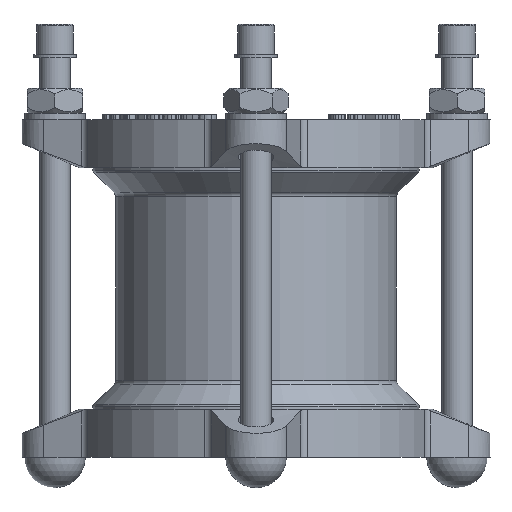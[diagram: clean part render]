
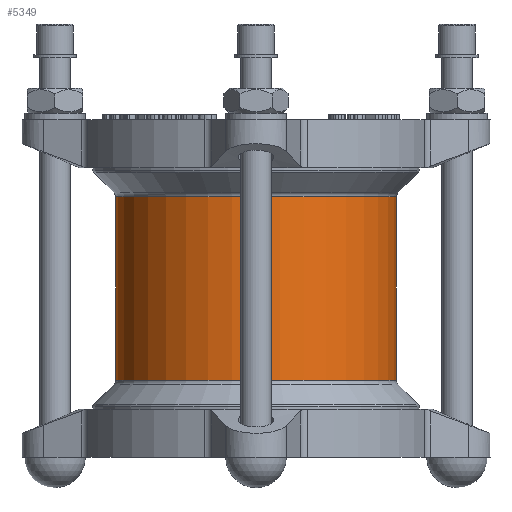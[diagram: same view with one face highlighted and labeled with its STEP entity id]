
A CAD part, front view. The second image highlights one B-rep face of the part: STEP entity #5349.
In plain terms, the highlighted cylindrical face has radius 55.5 mm (diameter 111 mm), a full revolution.
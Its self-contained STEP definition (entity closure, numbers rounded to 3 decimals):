
#5349=ADVANCED_FACE('',(#9897,#9899),#9901,.T.);
#9897=FACE_OUTER_BOUND('',#9898,.T.);
#9898=EDGE_LOOP('',(#14879));
#9899=FACE_OUTER_BOUND('',#9900,.T.);
#9900=EDGE_LOOP('',(#14880));
#9901=CYLINDRICAL_SURFACE('',#9902,55.5);
#9902=AXIS2_PLACEMENT_3D('',#9903,#9904,#9905);
#9903=CARTESIAN_POINT('',(0.,0.,37.172));
#9904=DIRECTION('',(0.,0.,-1.));
#9905=DIRECTION('',(0.,1.,0.));
#14879=ORIENTED_EDGE('',*,*,#16969,.T.);
#14880=ORIENTED_EDGE('',*,*,#16970,.F.);
#16969=EDGE_CURVE('',#19801,#19801,#19802,.T.);
#16970=EDGE_CURVE('',#19803,#19803,#19804,.T.);
#19801=VERTEX_POINT('',#28804);
#19802=CIRCLE('',#28805,55.5);
#19803=VERTEX_POINT('',#28809);
#19804=CIRCLE('',#28810,55.5);
#28804=CARTESIAN_POINT('',(0.,55.5,36.343));
#28805=AXIS2_PLACEMENT_3D('',#28806,#28807,#28808);
#28806=CARTESIAN_POINT('',(0.,0.,36.343));
#28807=DIRECTION('',(0.,0.,-1.));
#28808=DIRECTION('',(0.,1.,0.));
#28809=CARTESIAN_POINT('',(0.,55.5,-36.343));
#28810=AXIS2_PLACEMENT_3D('',#28811,#28812,#28813);
#28811=CARTESIAN_POINT('',(0.,0.,-36.343));
#28812=DIRECTION('',(0.,0.,-1.));
#28813=DIRECTION('',(0.,1.,0.));
